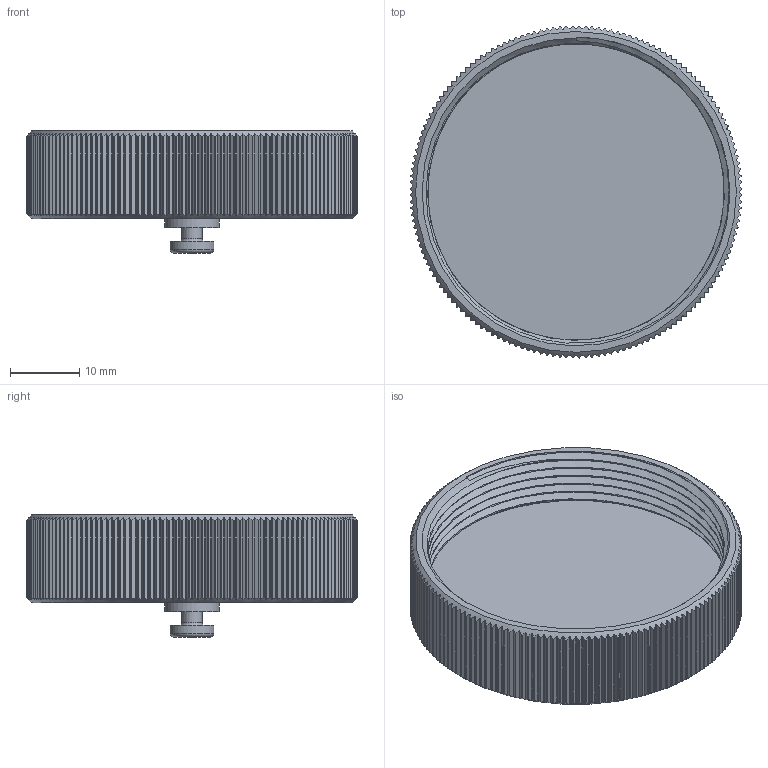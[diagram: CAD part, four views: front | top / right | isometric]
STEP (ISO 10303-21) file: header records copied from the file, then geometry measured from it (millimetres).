
FILE_DESCRIPTION (( 'STEP AP203' ), '1' );
FILE_NAME ('DMS25043-28D(R1) (without chain).STEP', '2021-06-22T05:28:20', ( '' ), ( '' ), 'SwSTEP 2.0', 'SolidWorks 2018', '' );
FILE_SCHEMA (( 'CONFIG_CONTROL_DESIGN' ));
Length unit declared in the file: millimetre
Products named in the file (1): DMS25043-28D(R1) (without chain)
Bounding box: 48.01 x 48.01 x 17.7 mm (x, y, z)
Volume: 9406.1 mm3; surface area: 8177.1 mm2
Topology: 1 solids, 1 shells, 982 faces, 2924 edges, 1949 vertices
Faces by surface type: cylinder 645, plane 329, bspline 3, cone 3, torus 2
Full cylindrical faces by diameter (mm): 2.9 x1, 6.35 x1, 7.94 x1, 44.6 x1
Entity records: 41893 total; most frequent: CARTESIAN_POINT 18387, ORIENTED_EDGE 5826, DIRECTION 3598, EDGE_CURVE 2913, VERTEX_POINT 1946, B_SPLINE_CURVE_WITH_KNOTS 1605, AXIS2_PLACEMENT_3D 1315, EDGE_LOOP 995
